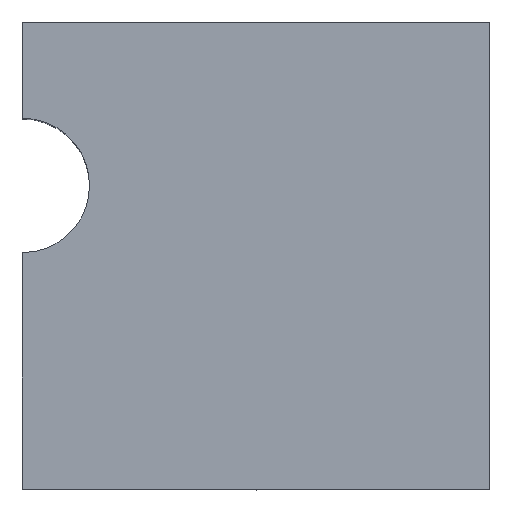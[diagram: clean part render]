
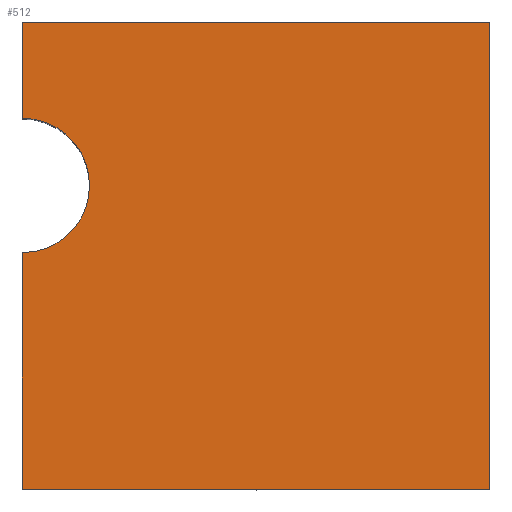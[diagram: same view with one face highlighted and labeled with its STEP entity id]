
A CAD part, top view. The second image highlights one B-rep face of the part: STEP entity #512.
In plain terms, the highlighted planar face has unit normal (0, 0, 1).
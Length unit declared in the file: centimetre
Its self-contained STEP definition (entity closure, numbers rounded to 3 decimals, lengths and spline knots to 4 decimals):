
#34 = LINE ( 'NONE', #341, #190 ) ;
#116 = ORIENTED_EDGE ( 'NONE', *, *, #677, .T. ) ;
#137 = EDGE_CURVE ( 'NONE', #194, #796, #700, .T. ) ;
#170 = DIRECTION ( 'NONE',  ( 1., 0., 0. ) ) ;
#189 = VERTEX_POINT ( 'NONE', #221 ) ;
#190 = VECTOR ( 'NONE', #579, 100. ) ;
#194 = VERTEX_POINT ( 'NONE', #630 ) ;
#208 = DIRECTION ( 'NONE',  ( 0., 1., 0. ) ) ;
#221 = CARTESIAN_POINT ( 'NONE',  ( 0., 1000., 1000. ) ) ;
#222 = CARTESIAN_POINT ( 'NONE',  ( 0., 794.0388, 1000. ) ) ;
#225 = ORIENTED_EDGE ( 'NONE', *, *, #230, .T. ) ;
#230 = EDGE_CURVE ( 'NONE', #189, #511, #34, .T. ) ;
#242 = CARTESIAN_POINT ( 'NONE',  ( 0., 0., 1000. ) ) ;
#244 = CIRCLE ( 'NONE', #734, 143.7974 ) ;
#276 = EDGE_CURVE ( 'NONE', #415, #761, #753, .T. ) ;
#308 = ORIENTED_EDGE ( 'NONE', *, *, #276, .T. ) ;
#312 = AXIS2_PLACEMENT_3D ( 'NONE', #457, #407, #712 ) ;
#341 = CARTESIAN_POINT ( 'NONE',  ( 0., 1000., 1000. ) ) ;
#355 = DIRECTION ( 'NONE',  ( -1., 0., 0. ) ) ;
#368 = CARTESIAN_POINT ( 'NONE',  ( 1000., 1000., 1000. ) ) ;
#382 = CIRCLE ( 'NONE', #421, 143.7974 ) ;
#388 = ORIENTED_EDGE ( 'NONE', *, *, #137, .T. ) ;
#407 = DIRECTION ( 'NONE',  ( 0., 0., 1. ) ) ;
#411 = LINE ( 'NONE', #482, #597 ) ;
#415 = VERTEX_POINT ( 'NONE', #502 ) ;
#417 = CARTESIAN_POINT ( 'NONE',  ( 0., 1000., 1000. ) ) ;
#421 = AXIS2_PLACEMENT_3D ( 'NONE', #426, #544, #422 ) ;
#422 = DIRECTION ( 'NONE',  ( 1., 0., 0. ) ) ;
#426 = CARTESIAN_POINT ( 'NONE',  ( 0., 650.2414, 1000. ) ) ;
#444 = DIRECTION ( 'NONE',  ( 0., -1., 0. ) ) ;
#457 = CARTESIAN_POINT ( 'NONE',  ( 0., 0., 1000. ) ) ;
#463 = PLANE ( 'NONE',  #312 ) ;
#482 = CARTESIAN_POINT ( 'NONE',  ( 0., 0., 1000. ) ) ;
#502 = CARTESIAN_POINT ( 'NONE',  ( 0., 506.444, 1000. ) ) ;
#505 = CARTESIAN_POINT ( 'NONE',  ( 0., 1000., 1000. ) ) ;
#511 = VERTEX_POINT ( 'NONE', #222 ) ;
#512 = ADVANCED_FACE ( 'NONE', ( #701 ), #463, .T. ) ;
#518 = VECTOR ( 'NONE', #208, 100. ) ;
#528 = DIRECTION ( 'NONE',  ( 1., 0., 0. ) ) ;
#532 = ORIENTED_EDGE ( 'NONE', *, *, #606, .T. ) ;
#534 = DIRECTION ( 'NONE',  ( 0., 0., 1. ) ) ;
#544 = DIRECTION ( 'NONE',  ( 0., 0., 1. ) ) ;
#579 = DIRECTION ( 'NONE',  ( 0., -1., 0. ) ) ;
#581 = VECTOR ( 'NONE', #444, 100. ) ;
#597 = VECTOR ( 'NONE', #170, 100. ) ;
#606 = EDGE_CURVE ( 'NONE', #761, #194, #411, .T. ) ;
#618 = ORIENTED_EDGE ( 'NONE', *, *, #619, .F. ) ;
#619 = EDGE_CURVE ( 'NONE', #415, #738, #244, .T. ) ;
#630 = CARTESIAN_POINT ( 'NONE',  ( 1000., 0., 1000. ) ) ;
#677 = EDGE_CURVE ( 'NONE', #796, #189, #791, .T. ) ;
#700 = LINE ( 'NONE', #706, #518 ) ;
#701 = FACE_OUTER_BOUND ( 'NONE', #756, .T. ) ;
#706 = CARTESIAN_POINT ( 'NONE',  ( 1000., 1000., 1000. ) ) ;
#712 = DIRECTION ( 'NONE',  ( 1., 0., 0. ) ) ;
#723 = CARTESIAN_POINT ( 'NONE',  ( 0., 650.2414, 1000. ) ) ;
#729 = EDGE_CURVE ( 'NONE', #738, #511, #382, .T. ) ;
#734 = AXIS2_PLACEMENT_3D ( 'NONE', #723, #534, #528 ) ;
#738 = VERTEX_POINT ( 'NONE', #799 ) ;
#751 = ORIENTED_EDGE ( 'NONE', *, *, #729, .F. ) ;
#753 = LINE ( 'NONE', #505, #581 ) ;
#754 = VECTOR ( 'NONE', #355, 100. ) ;
#756 = EDGE_LOOP ( 'NONE', ( #618, #308, #532, #388, #116, #225, #751 ) ) ;
#761 = VERTEX_POINT ( 'NONE', #242 ) ;
#791 = LINE ( 'NONE', #417, #754 ) ;
#796 = VERTEX_POINT ( 'NONE', #368 ) ;
#799 = CARTESIAN_POINT ( 'NONE',  ( 143.7974, 650.2414, 1000. ) ) ;
